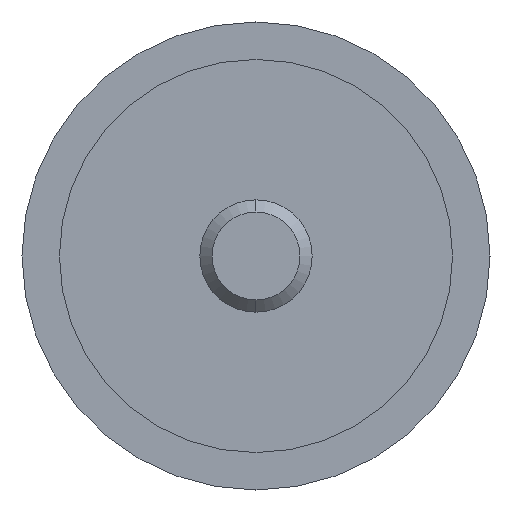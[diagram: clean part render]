
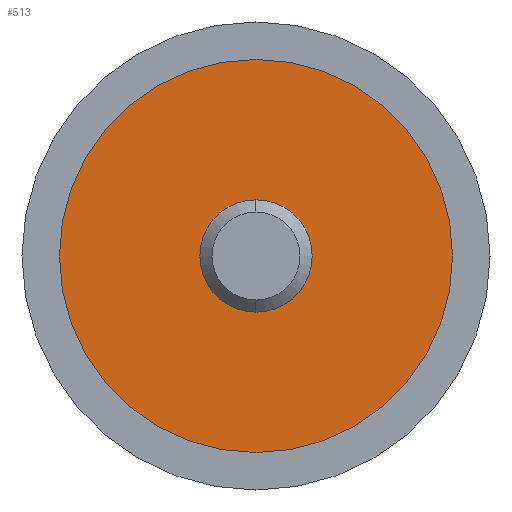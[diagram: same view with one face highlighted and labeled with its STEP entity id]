
A CAD part, left-side view. The second image highlights one B-rep face of the part: STEP entity #513.
In plain terms, the highlighted planar face has unit normal (-1, 0, 0).
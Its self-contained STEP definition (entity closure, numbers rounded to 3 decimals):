
#1 = DIRECTION ( 'NONE',  ( -1., 0., 0. ) ) ;
#4 = EDGE_CURVE ( 'NONE', #648, #158, #202, .T. ) ;
#23 = DIRECTION ( 'NONE',  ( 0., 0., -1. ) ) ;
#69 = CARTESIAN_POINT ( 'NONE',  ( -14.99, 10.5, 0. ) ) ;
#70 = DIRECTION ( 'NONE',  ( 0., 0., 1. ) ) ;
#78 = CARTESIAN_POINT ( 'NONE',  ( -14.99, 0., 0. ) ) ;
#146 = AXIS2_PLACEMENT_3D ( 'NONE', #334, #1, #70 ) ;
#155 = AXIS2_PLACEMENT_3D ( 'NONE', #267, #329, #494 ) ;
#158 = VERTEX_POINT ( 'NONE', #414 ) ;
#177 = ORIENTED_EDGE ( 'NONE', *, *, #331, .T. ) ;
#202 = CIRCLE ( 'NONE', #225, 3. ) ;
#214 = CARTESIAN_POINT ( 'NONE',  ( -14.99, 0., 10.5 ) ) ;
#225 = AXIS2_PLACEMENT_3D ( 'NONE', #78, #500, #23 ) ;
#242 = CIRCLE ( 'NONE', #146, 10.5 ) ;
#255 = ORIENTED_EDGE ( 'NONE', *, *, #4, .F. ) ;
#267 = CARTESIAN_POINT ( 'NONE',  ( -14.99, 0., 0. ) ) ;
#276 = DIRECTION ( 'NONE',  ( 1., 0., 0. ) ) ;
#295 = CARTESIAN_POINT ( 'NONE',  ( -14.99, 0., 0. ) ) ;
#303 = DIRECTION ( 'NONE',  ( 0., 0., 1. ) ) ;
#329 = DIRECTION ( 'NONE',  ( -1., 0., 0. ) ) ;
#331 = EDGE_CURVE ( 'NONE', #511, #639, #242, .T. ) ;
#334 = CARTESIAN_POINT ( 'NONE',  ( -14.99, 0., 0. ) ) ;
#378 = DIRECTION ( 'NONE',  ( 0., 0., -1. ) ) ;
#398 = EDGE_LOOP ( 'NONE', ( #545, #255 ) ) ;
#414 = CARTESIAN_POINT ( 'NONE',  ( -14.99, 0., 3. ) ) ;
#459 = AXIS2_PLACEMENT_3D ( 'NONE', #69, #276, #378 ) ;
#464 = CIRCLE ( 'NONE', #508, 10.5 ) ;
#471 = ORIENTED_EDGE ( 'NONE', *, *, #671, .T. ) ;
#494 = DIRECTION ( 'NONE',  ( 0., 0., -1. ) ) ;
#497 = FACE_OUTER_BOUND ( 'NONE', #627, .T. ) ;
#500 = DIRECTION ( 'NONE',  ( -1., 0., 0. ) ) ;
#508 = AXIS2_PLACEMENT_3D ( 'NONE', #295, #653, #303 ) ;
#509 = CARTESIAN_POINT ( 'NONE',  ( -14.99, 0., -3. ) ) ;
#511 = VERTEX_POINT ( 'NONE', #214 ) ;
#513 = ADVANCED_FACE ( 'NONE', ( #497, #533 ), #577, .F. ) ;
#527 = EDGE_CURVE ( 'NONE', #158, #648, #652, .T. ) ;
#533 = FACE_BOUND ( 'NONE', #398, .T. ) ;
#545 = ORIENTED_EDGE ( 'NONE', *, *, #527, .F. ) ;
#577 = PLANE ( 'NONE',  #459 ) ;
#599 = CARTESIAN_POINT ( 'NONE',  ( -14.99, 0., -10.5 ) ) ;
#627 = EDGE_LOOP ( 'NONE', ( #177, #471 ) ) ;
#639 = VERTEX_POINT ( 'NONE', #599 ) ;
#648 = VERTEX_POINT ( 'NONE', #509 ) ;
#652 = CIRCLE ( 'NONE', #155, 3. ) ;
#653 = DIRECTION ( 'NONE',  ( -1., 0., 0. ) ) ;
#671 = EDGE_CURVE ( 'NONE', #639, #511, #464, .T. ) ;
